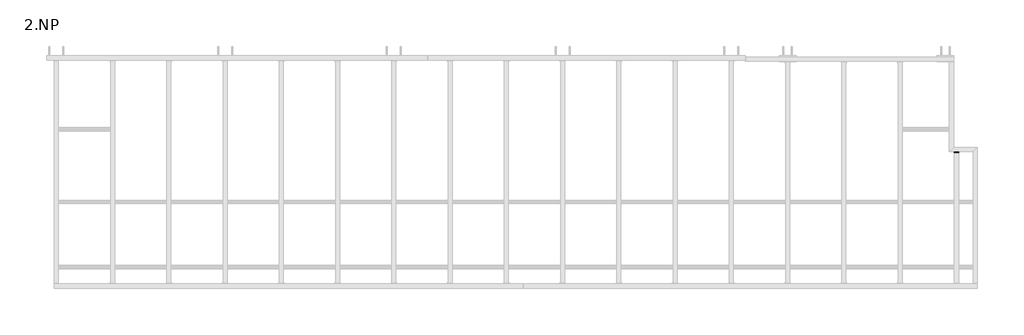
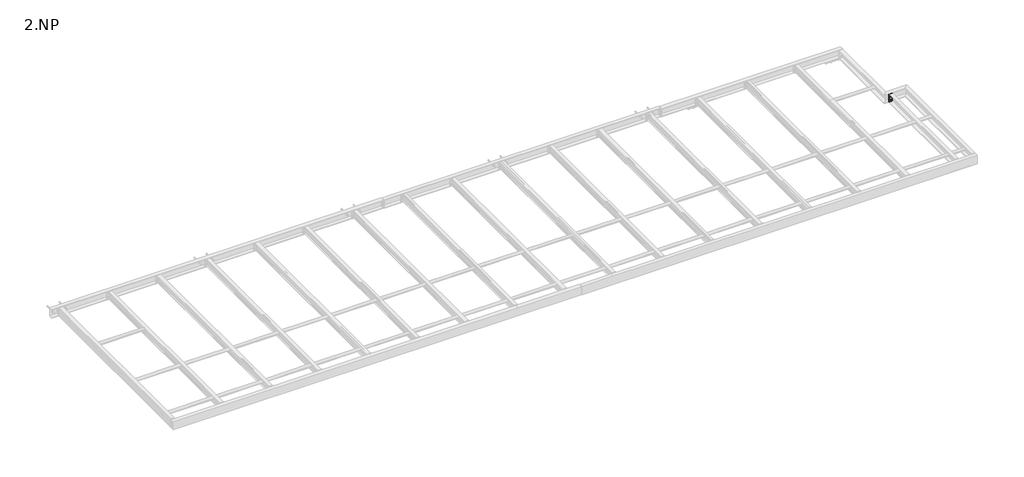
# One storey, part 16 of 18: 22 assemblies, 4 proxies.
"""IFC4 building model written with IfcOpenShell, lengths in millimetres."""

from ifc_helpers import new_model, si_unit, point, frame, frame_2d, origin, place, context, project, spatial, polyline, circle_curve, trimmed, segment, composite_curve, outline, extrude, element, save

model = new_model("IFC4")

# Units and contexts
model_context = context("Model", 3, world=origin())
ifc_project = project(units=[si_unit("LENGTHUNIT", "METRE", prefix="MILLI")], contexts=[model_context])

# Site, building, storey
site = spatial("IfcSite", under=ifc_project)
building = spatial("IfcBuilding", under=site)
storey = spatial("IfcBuildingStorey", under=building, Name="2.NP", Elevation=3000.0)

# Proxies
placement = place(None, origin())
element("IfcBuildingElementProxy", 1, Name="PLECH", ObjectType="PLECH", at=placement, inside=storey, context=model_context, shape_type="SweptSolid", body=[
    extrude(outline(polyline([(16015.0, 2145.0), (16090.0, 2145.0), (16090.0, 2135.0), (16015.0, 2135.0), (16015.0, 2145.0)])), frame((0.0, 0.0, 3130.0), z_axis=(0.0, 0.0, 1.0), x_axis=(1.0, 0.0, 0.0)), (0.0, 0.0, 1.0), 160.0),
])
element("IfcBuildingElementProxy", 2, Name="PLECH", ObjectType="PLECH", at=placement, inside=storey, context=model_context, shape_type="SweptSolid", body=[
    extrude(outline(polyline([(16015.0, 2155.0), (16090.0, 2155.0), (16090.0, 2145.0), (16015.0, 2145.0), (16015.0, 2155.0)])), frame((0.0, 0.0, 3130.0), z_axis=(0.0, 0.0, 1.0), x_axis=(1.0, 0.0, 0.0)), (0.0, 0.0, 1.0), 160.0),
])
element("IfcBuildingElementProxy", 3, Name="PLECH", ObjectType="PLECH", at=placement, inside=storey, context=model_context, shape_type="SweptSolid", body=[
    extrude(outline(composite_curve([segment(polyline([(2155.0, 3289.5), (2204.5, 3289.5)]), True, "CONTINUOUS"), segment(trimmed(circle_curve(frame_2d((2224.5, 3289.5)), 20.0), [point((2204.5, 3289.5))], [point((2224.5, 3269.5))], True, "CARTESIAN"), True, "CONTINUOUS"), segment(polyline([(2224.5, 3269.5), (2224.5, 3150.5)]), True, "CONTINUOUS"), segment(trimmed(circle_curve(frame_2d((2224.5, 3130.5)), 20.0), [point((2224.5, 3150.5))], [point((2204.5, 3130.5))], True, "CARTESIAN"), True, "CONTINUOUS"), segment(polyline([(2204.5, 3130.5), (2155.0, 3130.5), (2155.0, 3289.5)]), True, "CONTINUOUS")], self_intersect=False)), frame((16076.5, 0.0, 0.0), z_axis=(1.0, 0.0, 0.0), x_axis=(0.0, 1.0, 0.0)), (0.0, 0.0, 1.0), 8.0),
])
element("IfcBuildingElementProxy", 4, Name="Bolt assembly", ObjectType="Bolt assembly", at=placement, inside=storey, context=model_context, shape_type="SweptSolid", body=[
    extrude(outline(composite_curve([segment(trimmed(circle_curve(frame_2d((3170.0, 16050.0)), 9.0), [point((3170.0, 16059.0))], [point((3170.0, 16041.0))], False, "CARTESIAN"), True, "CONTINUOUS"), segment(trimmed(circle_curve(frame_2d((3170.0, 16050.0)), 9.0), [point((3170.0, 16041.0))], [point((3170.0, 16059.0))], False, "CARTESIAN"), True, "CONTINUOUS")], self_intersect=False)), frame((0.0, 2144.9, 0.0), z_axis=(0.0, 1.0, 0.0), x_axis=(0.0, 0.0, 1.0)), (0.0, 0.0, 1.0), 10.0),
    extrude(outline(polyline([(3170.0, 16063.8564065), (3182.0, 16056.9282032), (3182.0, 16043.0717968), (3170.0, 16036.1435935), (3158.0, 16043.0717968), (3158.0, 16056.9282032), (3170.0, 16063.8564065)])), frame((0.0, 2158.0, 0.0), z_axis=(0.0, 1.0, 0.0), x_axis=(0.0, 0.0, 1.0)), (0.0, 0.0, 1.0), 10.0),
    extrude(outline(composite_curve([segment(trimmed(circle_curve(frame_2d((3170.0, 16050.0)), 8.0), [point((3170.0, 16058.0))], [point((3170.0, 16042.0))], False, "CARTESIAN"), True, "CONTINUOUS"), segment(trimmed(circle_curve(frame_2d((3170.0, 16050.0)), 8.0), [point((3170.0, 16042.0))], [point((3170.0, 16058.0))], False, "CARTESIAN"), True, "CONTINUOUS")], self_intersect=False)), frame((0.0, 2108.0, 0.0), z_axis=(0.0, 1.0, 0.0), x_axis=(0.0, 0.0, 1.0)), (0.0, 0.0, 1.0), 50.0),
    extrude(outline(composite_curve([segment(trimmed(circle_curve(frame_2d((3170.0, 16050.0)), 15.0), [point((3170.0, 16065.0))], [point((3170.0, 16035.0))], False, "CARTESIAN"), True, "CONTINUOUS"), segment(trimmed(circle_curve(frame_2d((3170.0, 16050.0)), 15.0), [point((3170.0, 16035.0))], [point((3170.0, 16065.0))], False, "CARTESIAN"), True, "CONTINUOUS")], self_intersect=False)), frame((0.0, 2155.0, 0.0), z_axis=(0.0, 1.0, 0.0), x_axis=(0.0, 0.0, 1.0)), (0.0, 0.0, 1.0), 3.0),
    extrude(outline(composite_curve([segment(trimmed(circle_curve(frame_2d((3170.0, 16050.0)), 15.0), [point((3170.0, 16065.0))], [point((3170.0, 16035.0))], False, "CARTESIAN"), True, "CONTINUOUS"), segment(trimmed(circle_curve(frame_2d((3170.0, 16050.0)), 15.0), [point((3170.0, 16035.0))], [point((3170.0, 16065.0))], False, "CARTESIAN"), True, "CONTINUOUS")], self_intersect=False)), frame((0.0, 2132.0, 0.0), z_axis=(0.0, 1.0, 0.0), x_axis=(0.0, 0.0, 1.0)), (0.0, 0.0, 1.0), 3.0),
    extrude(outline(polyline([(3170.0, 16065.4441197), (3183.375, 16057.7220599), (3183.375, 16042.2779401), (3170.0, 16034.5558803), (3156.625, 16042.2779401), (3156.625, 16057.7220599), (3170.0, 16065.4441197)])), frame((0.0, 2119.0, 0.0), z_axis=(0.0, 1.0, 0.0), x_axis=(0.0, 0.0, 1.0)), (0.0, 0.0, 1.0), 13.0),
    extrude(outline(composite_curve([segment(trimmed(circle_curve(frame_2d((3170.0, 16050.0)), 9.0), [point((3170.0, 16059.0))], [point((3170.0, 16041.0))], False, "CARTESIAN"), True, "CONTINUOUS"), segment(trimmed(circle_curve(frame_2d((3170.0, 16050.0)), 9.0), [point((3170.0, 16041.0))], [point((3170.0, 16059.0))], False, "CARTESIAN"), True, "CONTINUOUS")], self_intersect=False)), frame((0.0, 2135.0, 0.0), z_axis=(0.0, 1.0, 0.0), x_axis=(0.0, 0.0, 1.0)), (0.0, 0.0, 1.0), 10.1),
    extrude(outline(composite_curve([segment(trimmed(circle_curve(frame_2d((3250.0, 16050.0)), 9.0), [point((3250.0, 16059.0))], [point((3250.0, 16041.0))], False, "CARTESIAN"), True, "CONTINUOUS"), segment(trimmed(circle_curve(frame_2d((3250.0, 16050.0)), 9.0), [point((3250.0, 16041.0))], [point((3250.0, 16059.0))], False, "CARTESIAN"), True, "CONTINUOUS")], self_intersect=False)), frame((0.0, 2144.9, 0.0), z_axis=(0.0, 1.0, 0.0), x_axis=(0.0, 0.0, 1.0)), (0.0, 0.0, 1.0), 10.0),
    extrude(outline(polyline([(3250.0, 16063.8564065), (3262.0, 16056.9282032), (3262.0, 16043.0717968), (3250.0, 16036.1435935), (3238.0, 16043.0717968), (3238.0, 16056.9282032), (3250.0, 16063.8564065)])), frame((0.0, 2158.0, 0.0), z_axis=(0.0, 1.0, 0.0), x_axis=(0.0, 0.0, 1.0)), (0.0, 0.0, 1.0), 10.0),
    extrude(outline(composite_curve([segment(trimmed(circle_curve(frame_2d((3250.0, 16050.0)), 8.0), [point((3250.0, 16058.0))], [point((3250.0, 16042.0))], False, "CARTESIAN"), True, "CONTINUOUS"), segment(trimmed(circle_curve(frame_2d((3250.0, 16050.0)), 8.0), [point((3250.0, 16042.0))], [point((3250.0, 16058.0))], False, "CARTESIAN"), True, "CONTINUOUS")], self_intersect=False)), frame((0.0, 2108.0, 0.0), z_axis=(0.0, 1.0, 0.0), x_axis=(0.0, 0.0, 1.0)), (0.0, 0.0, 1.0), 50.0),
    extrude(outline(composite_curve([segment(trimmed(circle_curve(frame_2d((3250.0, 16050.0)), 15.0), [point((3250.0, 16065.0))], [point((3250.0, 16035.0))], False, "CARTESIAN"), True, "CONTINUOUS"), segment(trimmed(circle_curve(frame_2d((3250.0, 16050.0)), 15.0), [point((3250.0, 16035.0))], [point((3250.0, 16065.0))], False, "CARTESIAN"), True, "CONTINUOUS")], self_intersect=False)), frame((0.0, 2155.0, 0.0), z_axis=(0.0, 1.0, 0.0), x_axis=(0.0, 0.0, 1.0)), (0.0, 0.0, 1.0), 3.0),
    extrude(outline(composite_curve([segment(trimmed(circle_curve(frame_2d((3250.0, 16050.0)), 15.0), [point((3250.0, 16065.0))], [point((3250.0, 16035.0))], False, "CARTESIAN"), True, "CONTINUOUS"), segment(trimmed(circle_curve(frame_2d((3250.0, 16050.0)), 15.0), [point((3250.0, 16035.0))], [point((3250.0, 16065.0))], False, "CARTESIAN"), True, "CONTINUOUS")], self_intersect=False)), frame((0.0, 2132.0, 0.0), z_axis=(0.0, 1.0, 0.0), x_axis=(0.0, 0.0, 1.0)), (0.0, 0.0, 1.0), 3.0),
    extrude(outline(polyline([(3250.0, 16065.4441197), (3263.375, 16057.7220599), (3263.375, 16042.2779401), (3250.0, 16034.5558803), (3236.625, 16042.2779401), (3236.625, 16057.7220599), (3250.0, 16065.4441197)])), frame((0.0, 2119.0, 0.0), z_axis=(0.0, 1.0, 0.0), x_axis=(0.0, 0.0, 1.0)), (0.0, 0.0, 1.0), 13.0),
    extrude(outline(composite_curve([segment(trimmed(circle_curve(frame_2d((3250.0, 16050.0)), 9.0), [point((3250.0, 16059.0))], [point((3250.0, 16041.0))], False, "CARTESIAN"), True, "CONTINUOUS"), segment(trimmed(circle_curve(frame_2d((3250.0, 16050.0)), 9.0), [point((3250.0, 16041.0))], [point((3250.0, 16059.0))], False, "CARTESIAN"), True, "CONTINUOUS")], self_intersect=False)), frame((0.0, 2135.0, 0.0), z_axis=(0.0, 1.0, 0.0), x_axis=(0.0, 0.0, 1.0)), (0.0, 0.0, 1.0), 10.1),
])

# Assemblies
element("IfcElementAssembly", 5, at=placement, inside=storey, context=model_context, shape_type="SweptSolid", body=[
    extrude(outline(composite_curve([segment(trimmed(circle_curve(frame_2d((1260.0, 3230.0)), 30.15), [point((1290.15, 3230.0))], [point((1229.85, 3230.0))], False, "CARTESIAN"), True, "CONTINUOUS"), segment(trimmed(circle_curve(frame_2d((1260.0, 3230.0)), 30.15), [point((1229.85, 3230.0))], [point((1290.15, 3230.0))], False, "CARTESIAN"), True, "CONTINUOUS")], self_intersect=False), holes=[composite_curve([segment(trimmed(circle_curve(frame_2d((1260.0, 3230.0)), 25.15), [point((1285.15, 3230.0))], [point((1234.85, 3230.0))], True, "CARTESIAN"), True, "CONTINUOUS"), segment(trimmed(circle_curve(frame_2d((1260.0, 3230.0)), 25.15), [point((1234.85, 3230.0))], [point((1285.15, 3230.0))], True, "CARTESIAN"), True, "CONTINUOUS")], self_intersect=False)]), frame((15.45, 0.0, 0.0), z_axis=(1.0, 0.0, 0.0), x_axis=(0.0, 1.0, 0.0)), (0.0, 0.0, 1.0), 1032.2),
])
element("IfcElementAssembly", 6, at=placement, inside=storey, context=model_context, shape_type="SweptSolid", body=[
    extrude(outline(composite_curve([segment(trimmed(circle_curve(frame_2d((1260.0, 3230.0)), 30.15), [point((1290.15, 3230.0))], [point((1229.85, 3230.0))], False, "CARTESIAN"), True, "CONTINUOUS"), segment(trimmed(circle_curve(frame_2d((1260.0, 3230.0)), 30.15), [point((1229.85, 3230.0))], [point((1290.15, 3230.0))], False, "CARTESIAN"), True, "CONTINUOUS")], self_intersect=False), holes=[composite_curve([segment(trimmed(circle_curve(frame_2d((1260.0, 3230.0)), 25.15), [point((1285.15, 3230.0))], [point((1234.85, 3230.0))], True, "CARTESIAN"), True, "CONTINUOUS"), segment(trimmed(circle_curve(frame_2d((1260.0, 3230.0)), 25.15), [point((1234.85, 3230.0))], [point((1285.15, 3230.0))], True, "CARTESIAN"), True, "CONTINUOUS")], self_intersect=False)]), frame((1052.35, 0.0, 0.0), z_axis=(1.0, 0.0, 0.0), x_axis=(0.0, 1.0, 0.0)), (0.0, 0.0, 1.0), 995.3),
])
element("IfcElementAssembly", 7, at=placement, inside=storey, context=model_context, shape_type="SweptSolid", body=[
    extrude(outline(composite_curve([segment(trimmed(circle_curve(frame_2d((1260.0, 3230.0)), 30.15), [point((1290.15, 3230.0))], [point((1229.85, 3230.0))], False, "CARTESIAN"), True, "CONTINUOUS"), segment(trimmed(circle_curve(frame_2d((1260.0, 3230.0)), 30.15), [point((1229.85, 3230.0))], [point((1290.15, 3230.0))], False, "CARTESIAN"), True, "CONTINUOUS")], self_intersect=False), holes=[composite_curve([segment(trimmed(circle_curve(frame_2d((1260.0, 3230.0)), 25.15), [point((1285.15, 3230.0))], [point((1234.85, 3230.0))], True, "CARTESIAN"), True, "CONTINUOUS"), segment(trimmed(circle_curve(frame_2d((1260.0, 3230.0)), 25.15), [point((1234.85, 3230.0))], [point((1285.15, 3230.0))], True, "CARTESIAN"), True, "CONTINUOUS")], self_intersect=False)]), frame((2052.35, 0.0, 0.0), z_axis=(1.0, 0.0, 0.0), x_axis=(0.0, 1.0, 0.0)), (0.0, 0.0, 1.0), 995.3),
])
element("IfcElementAssembly", 8, at=placement, inside=storey, context=model_context, shape_type="SweptSolid", body=[
    extrude(outline(composite_curve([segment(trimmed(circle_curve(frame_2d((1260.0, 3230.0)), 30.15), [point((1290.15, 3230.0))], [point((1229.85, 3230.0))], False, "CARTESIAN"), True, "CONTINUOUS"), segment(trimmed(circle_curve(frame_2d((1260.0, 3230.0)), 30.15), [point((1229.85, 3230.0))], [point((1290.15, 3230.0))], False, "CARTESIAN"), True, "CONTINUOUS")], self_intersect=False), holes=[composite_curve([segment(trimmed(circle_curve(frame_2d((1260.0, 3230.0)), 25.15), [point((1285.15, 3230.0))], [point((1234.85, 3230.0))], True, "CARTESIAN"), True, "CONTINUOUS"), segment(trimmed(circle_curve(frame_2d((1260.0, 3230.0)), 25.15), [point((1234.85, 3230.0))], [point((1285.15, 3230.0))], True, "CARTESIAN"), True, "CONTINUOUS")], self_intersect=False)]), frame((3052.35, 0.0, 0.0), z_axis=(1.0, 0.0, 0.0), x_axis=(0.0, 1.0, 0.0)), (0.0, 0.0, 1.0), 995.3),
])
element("IfcElementAssembly", 9, at=placement, inside=storey, context=model_context, shape_type="SweptSolid", body=[
    extrude(outline(composite_curve([segment(trimmed(circle_curve(frame_2d((1260.0, 3230.0)), 30.15), [point((1290.15, 3230.0))], [point((1229.85, 3230.0))], False, "CARTESIAN"), True, "CONTINUOUS"), segment(trimmed(circle_curve(frame_2d((1260.0, 3230.0)), 30.15), [point((1229.85, 3230.0))], [point((1290.15, 3230.0))], False, "CARTESIAN"), True, "CONTINUOUS")], self_intersect=False), holes=[composite_curve([segment(trimmed(circle_curve(frame_2d((1260.0, 3230.0)), 25.15), [point((1285.15, 3230.0))], [point((1234.85, 3230.0))], True, "CARTESIAN"), True, "CONTINUOUS"), segment(trimmed(circle_curve(frame_2d((1260.0, 3230.0)), 25.15), [point((1234.85, 3230.0))], [point((1285.15, 3230.0))], True, "CARTESIAN"), True, "CONTINUOUS")], self_intersect=False)]), frame((4052.35, 0.0, 0.0), z_axis=(1.0, 0.0, 0.0), x_axis=(0.0, 1.0, 0.0)), (0.0, 0.0, 1.0), 995.3),
])
element("IfcElementAssembly", 10, at=placement, inside=storey, context=model_context, shape_type="SweptSolid", body=[
    extrude(outline(composite_curve([segment(trimmed(circle_curve(frame_2d((1260.0, 3230.0)), 30.15), [point((1290.15, 3230.0))], [point((1229.85, 3230.0))], False, "CARTESIAN"), True, "CONTINUOUS"), segment(trimmed(circle_curve(frame_2d((1260.0, 3230.0)), 30.15), [point((1229.85, 3230.0))], [point((1290.15, 3230.0))], False, "CARTESIAN"), True, "CONTINUOUS")], self_intersect=False), holes=[composite_curve([segment(trimmed(circle_curve(frame_2d((1260.0, 3230.0)), 25.15), [point((1285.15, 3230.0))], [point((1234.85, 3230.0))], True, "CARTESIAN"), True, "CONTINUOUS"), segment(trimmed(circle_curve(frame_2d((1260.0, 3230.0)), 25.15), [point((1234.85, 3230.0))], [point((1285.15, 3230.0))], True, "CARTESIAN"), True, "CONTINUOUS")], self_intersect=False)]), frame((5052.35, 0.0, 0.0), z_axis=(1.0, 0.0, 0.0), x_axis=(0.0, 1.0, 0.0)), (0.0, 0.0, 1.0), 995.3),
])
element("IfcElementAssembly", 11, at=placement, inside=storey, context=model_context, shape_type="SweptSolid", body=[
    extrude(outline(composite_curve([segment(trimmed(circle_curve(frame_2d((100.0, 3230.0)), 30.15), [point((130.15, 3230.0))], [point((69.85, 3230.0))], False, "CARTESIAN"), True, "CONTINUOUS"), segment(trimmed(circle_curve(frame_2d((100.0, 3230.0)), 30.15), [point((69.85, 3230.0))], [point((130.15, 3230.0))], False, "CARTESIAN"), True, "CONTINUOUS")], self_intersect=False), holes=[composite_curve([segment(trimmed(circle_curve(frame_2d((100.0, 3230.0)), 25.15), [point((125.15, 3230.0))], [point((74.85, 3230.0))], True, "CARTESIAN"), True, "CONTINUOUS"), segment(trimmed(circle_curve(frame_2d((100.0, 3230.0)), 25.15), [point((74.85, 3230.0))], [point((125.15, 3230.0))], True, "CARTESIAN"), True, "CONTINUOUS")], self_intersect=False)]), frame((1052.35, 0.0, 0.0), z_axis=(1.0, 0.0, 0.0), x_axis=(0.0, 1.0, 0.0)), (0.0, 0.0, 1.0), 995.3),
])
element("IfcElementAssembly", 12, at=placement, inside=storey, context=model_context, shape_type="SweptSolid", body=[
    extrude(outline(composite_curve([segment(trimmed(circle_curve(frame_2d((100.0, 3230.0)), 30.15), [point((130.15, 3230.0))], [point((69.85, 3230.0))], False, "CARTESIAN"), True, "CONTINUOUS"), segment(trimmed(circle_curve(frame_2d((100.0, 3230.0)), 30.15), [point((69.85, 3230.0))], [point((130.15, 3230.0))], False, "CARTESIAN"), True, "CONTINUOUS")], self_intersect=False), holes=[composite_curve([segment(trimmed(circle_curve(frame_2d((100.0, 3230.0)), 25.15), [point((125.15, 3230.0))], [point((74.85, 3230.0))], True, "CARTESIAN"), True, "CONTINUOUS"), segment(trimmed(circle_curve(frame_2d((100.0, 3230.0)), 25.15), [point((74.85, 3230.0))], [point((125.15, 3230.0))], True, "CARTESIAN"), True, "CONTINUOUS")], self_intersect=False)]), frame((15.45, 0.0, 0.0), z_axis=(1.0, 0.0, 0.0), x_axis=(0.0, 1.0, 0.0)), (0.0, 0.0, 1.0), 1032.2),
])
element("IfcElementAssembly", 13, at=placement, inside=storey, context=model_context, shape_type="SweptSolid", body=[
    extrude(outline(composite_curve([segment(trimmed(circle_curve(frame_2d((100.0, 3230.0)), 30.15), [point((130.15, 3230.0))], [point((69.85, 3230.0))], False, "CARTESIAN"), True, "CONTINUOUS"), segment(trimmed(circle_curve(frame_2d((100.0, 3230.0)), 30.15), [point((69.85, 3230.0))], [point((130.15, 3230.0))], False, "CARTESIAN"), True, "CONTINUOUS")], self_intersect=False), holes=[composite_curve([segment(trimmed(circle_curve(frame_2d((100.0, 3230.0)), 25.15), [point((125.15, 3230.0))], [point((74.85, 3230.0))], True, "CARTESIAN"), True, "CONTINUOUS"), segment(trimmed(circle_curve(frame_2d((100.0, 3230.0)), 25.15), [point((74.85, 3230.0))], [point((125.15, 3230.0))], True, "CARTESIAN"), True, "CONTINUOUS")], self_intersect=False)]), frame((2052.35, 0.0, 0.0), z_axis=(1.0, 0.0, 0.0), x_axis=(0.0, 1.0, 0.0)), (0.0, 0.0, 1.0), 995.3),
])
element("IfcElementAssembly", 14, at=placement, inside=storey, context=model_context, shape_type="SweptSolid", body=[
    extrude(outline(composite_curve([segment(trimmed(circle_curve(frame_2d((100.0, 3230.0)), 30.15), [point((130.15, 3230.0))], [point((69.85, 3230.0))], False, "CARTESIAN"), True, "CONTINUOUS"), segment(trimmed(circle_curve(frame_2d((100.0, 3230.0)), 30.15), [point((69.85, 3230.0))], [point((130.15, 3230.0))], False, "CARTESIAN"), True, "CONTINUOUS")], self_intersect=False), holes=[composite_curve([segment(trimmed(circle_curve(frame_2d((100.0, 3230.0)), 25.15), [point((125.15, 3230.0))], [point((74.85, 3230.0))], True, "CARTESIAN"), True, "CONTINUOUS"), segment(trimmed(circle_curve(frame_2d((100.0, 3230.0)), 25.15), [point((74.85, 3230.0))], [point((125.15, 3230.0))], True, "CARTESIAN"), True, "CONTINUOUS")], self_intersect=False)]), frame((3052.35, 0.0, 0.0), z_axis=(1.0, 0.0, 0.0), x_axis=(0.0, 1.0, 0.0)), (0.0, 0.0, 1.0), 995.3),
])
element("IfcElementAssembly", 15, at=placement, inside=storey, context=model_context, shape_type="SweptSolid", body=[
    extrude(outline(composite_curve([segment(trimmed(circle_curve(frame_2d((100.0, 3230.0)), 30.15), [point((130.15, 3230.0))], [point((69.85, 3230.0))], False, "CARTESIAN"), True, "CONTINUOUS"), segment(trimmed(circle_curve(frame_2d((100.0, 3230.0)), 30.15), [point((69.85, 3230.0))], [point((130.15, 3230.0))], False, "CARTESIAN"), True, "CONTINUOUS")], self_intersect=False), holes=[composite_curve([segment(trimmed(circle_curve(frame_2d((100.0, 3230.0)), 25.15), [point((125.15, 3230.0))], [point((74.85, 3230.0))], True, "CARTESIAN"), True, "CONTINUOUS"), segment(trimmed(circle_curve(frame_2d((100.0, 3230.0)), 25.15), [point((74.85, 3230.0))], [point((125.15, 3230.0))], True, "CARTESIAN"), True, "CONTINUOUS")], self_intersect=False)]), frame((4052.35, 0.0, 0.0), z_axis=(1.0, 0.0, 0.0), x_axis=(0.0, 1.0, 0.0)), (0.0, 0.0, 1.0), 995.3),
])
element("IfcElementAssembly", 16, at=placement, inside=storey, context=model_context, shape_type="SweptSolid", body=[
    extrude(outline(composite_curve([segment(trimmed(circle_curve(frame_2d((100.0, 3230.0)), 30.15), [point((130.15, 3230.0))], [point((69.85, 3230.0))], False, "CARTESIAN"), True, "CONTINUOUS"), segment(trimmed(circle_curve(frame_2d((100.0, 3230.0)), 30.15), [point((69.85, 3230.0))], [point((130.15, 3230.0))], False, "CARTESIAN"), True, "CONTINUOUS")], self_intersect=False), holes=[composite_curve([segment(trimmed(circle_curve(frame_2d((100.0, 3230.0)), 25.15), [point((125.15, 3230.0))], [point((74.85, 3230.0))], True, "CARTESIAN"), True, "CONTINUOUS"), segment(trimmed(circle_curve(frame_2d((100.0, 3230.0)), 25.15), [point((74.85, 3230.0))], [point((125.15, 3230.0))], True, "CARTESIAN"), True, "CONTINUOUS")], self_intersect=False)]), frame((5052.35, 0.0, 0.0), z_axis=(1.0, 0.0, 0.0), x_axis=(0.0, 1.0, 0.0)), (0.0, 0.0, 1.0), 995.3),
])
element("IfcElementAssembly", 17, at=placement, inside=storey, context=model_context, shape_type="SweptSolid", body=[
    extrude(outline(composite_curve([segment(trimmed(circle_curve(frame_2d((2550.0, 3230.0)), 30.15), [point((2580.15, 3230.0))], [point((2519.85, 3230.0))], False, "CARTESIAN"), True, "CONTINUOUS"), segment(trimmed(circle_curve(frame_2d((2550.0, 3230.0)), 30.15), [point((2519.85, 3230.0))], [point((2580.15, 3230.0))], False, "CARTESIAN"), True, "CONTINUOUS")], self_intersect=False), holes=[composite_curve([segment(trimmed(circle_curve(frame_2d((2550.0, 3230.0)), 25.15), [point((2575.15, 3230.0))], [point((2524.85, 3230.0))], True, "CARTESIAN"), True, "CONTINUOUS"), segment(trimmed(circle_curve(frame_2d((2550.0, 3230.0)), 25.15), [point((2524.85, 3230.0))], [point((2575.15, 3230.0))], True, "CARTESIAN"), True, "CONTINUOUS")], self_intersect=False)]), frame((15.5, 0.0, 0.0), z_axis=(1.0, 0.0, 0.0), x_axis=(0.0, 1.0, 0.0)), (0.0, 0.0, 1.0), 1034.5),
])
element("IfcElementAssembly", 18, at=placement, inside=storey, context=model_context, shape_type="SweptSolid", body=[
    extrude(outline(composite_curve([segment(polyline([(3160.0, 3013.5), (3160.0, 3086.5), (3166.9000001, 3086.5), (3166.9000001, 3059.3499999)]), True, "CONTINUOUS"), segment(trimmed(circle_curve(frame_2d((3173.9000001, 3059.3499999)), 7.0), [point((3166.9000001, 3059.3499999))], [point((3173.9000001, 3052.3499999))], True, "CARTESIAN"), True, "CONTINUOUS"), segment(polyline([(3173.9000001, 3052.3499999), (3286.0999999, 3052.3499999)]), True, "CONTINUOUS"), segment(trimmed(circle_curve(frame_2d((3286.0999999, 3059.3499999)), 7.0), [point((3286.0999999, 3052.3499999))], [point((3293.0999999, 3059.3499999))], True, "CARTESIAN"), True, "CONTINUOUS"), segment(polyline([(3293.0999999, 3059.3499999), (3293.0999999, 3086.5), (3300.0, 3086.5), (3300.0, 3013.5), (3293.0999999, 3013.5), (3293.0999999, 3040.6500001)]), True, "CONTINUOUS"), segment(trimmed(circle_curve(frame_2d((3286.0999999, 3040.6500001)), 7.0), [point((3293.0999999, 3040.6500001))], [point((3286.0999999, 3047.6500001))], True, "CARTESIAN"), True, "CONTINUOUS"), segment(polyline([(3286.0999999, 3047.6500001), (3173.9000001, 3047.6500001)]), True, "CONTINUOUS"), segment(trimmed(circle_curve(frame_2d((3173.9000001, 3040.6500001)), 7.0), [point((3173.9000001, 3047.6500001))], [point((3166.9000001, 3040.6500001))], True, "CARTESIAN"), True, "CONTINUOUS"), segment(polyline([(3166.9000001, 3040.6500001), (3166.9000001, 3013.5), (3160.0, 3013.5)]), True, "CONTINUOUS")], self_intersect=False)), frame((0.0, -180.0, 0.0), z_axis=(0.0, 1.0, 0.0), x_axis=(0.0, 0.0, 1.0)), (0.0, 0.0, 1.0), 3947.0),
    extrude(outline(polyline([(3000.0, 3775.0), (3100.0, 3775.0), (3100.0, 3767.0), (3000.0, 3767.0), (3000.0, 3775.0)])), frame((0.0, 0.0, 3175.0), z_axis=(0.0, 0.0, 1.0), x_axis=(1.0, 0.0, 0.0)), (0.0, 0.0, 1.0), 110.0),
    extrude(outline(polyline([(3000.0, -180.0), (3100.0, -180.0), (3100.0, -190.0), (3000.0, -190.0), (3000.0, -180.0)])), frame((0.0, 0.0, 3166.5), z_axis=(0.0, 0.0, 1.0), x_axis=(1.0, 0.0, 0.0)), (0.0, 0.0, 1.0), 127.0),
])
element("IfcElementAssembly", 19, at=placement, inside=storey, context=model_context, shape_type="SweptSolid", body=[
    extrude(outline(composite_curve([segment(polyline([(3160.0, 4013.5), (3160.0, 4086.5), (3166.9000001, 4086.5), (3166.9000001, 4059.3499999)]), True, "CONTINUOUS"), segment(trimmed(circle_curve(frame_2d((3173.9000001, 4059.3499999)), 7.0), [point((3166.9000001, 4059.3499999))], [point((3173.9000001, 4052.3499999))], True, "CARTESIAN"), True, "CONTINUOUS"), segment(polyline([(3173.9000001, 4052.3499999), (3286.0999999, 4052.3499999)]), True, "CONTINUOUS"), segment(trimmed(circle_curve(frame_2d((3286.0999999, 4059.3499999)), 7.0), [point((3286.0999999, 4052.3499999))], [point((3293.0999999, 4059.3499999))], True, "CARTESIAN"), True, "CONTINUOUS"), segment(polyline([(3293.0999999, 4059.3499999), (3293.0999999, 4086.5), (3300.0, 4086.5), (3300.0, 4013.5), (3293.0999999, 4013.5), (3293.0999999, 4040.6500001)]), True, "CONTINUOUS"), segment(trimmed(circle_curve(frame_2d((3286.0999999, 4040.6500001)), 7.0), [point((3293.0999999, 4040.6500001))], [point((3286.0999999, 4047.6500001))], True, "CARTESIAN"), True, "CONTINUOUS"), segment(polyline([(3286.0999999, 4047.6500001), (3173.9000001, 4047.6500001)]), True, "CONTINUOUS"), segment(trimmed(circle_curve(frame_2d((3173.9000001, 4040.6500001)), 7.0), [point((3173.9000001, 4047.6500001))], [point((3166.9000001, 4040.6500001))], True, "CARTESIAN"), True, "CONTINUOUS"), segment(polyline([(3166.9000001, 4040.6500001), (3166.9000001, 4013.5), (3160.0, 4013.5)]), True, "CONTINUOUS")], self_intersect=False)), frame((0.0, -180.0, 0.0), z_axis=(0.0, 1.0, 0.0), x_axis=(0.0, 0.0, 1.0)), (0.0, 0.0, 1.0), 3947.0),
    extrude(outline(polyline([(4000.0, 3775.0), (4100.0, 3775.0), (4100.0, 3767.0), (4000.0, 3767.0), (4000.0, 3775.0)])), frame((0.0, 0.0, 3175.0), z_axis=(0.0, 0.0, 1.0), x_axis=(1.0, 0.0, 0.0)), (0.0, 0.0, 1.0), 110.0),
    extrude(outline(polyline([(4000.0, -180.0), (4100.0, -180.0), (4100.0, -190.0), (4000.0, -190.0), (4000.0, -180.0)])), frame((0.0, 0.0, 3166.5), z_axis=(0.0, 0.0, 1.0), x_axis=(1.0, 0.0, 0.0)), (0.0, 0.0, 1.0), 127.0),
])
element("IfcElementAssembly", 20, at=placement, inside=storey, context=model_context, shape_type="SweptSolid", body=[
    extrude(outline(composite_curve([segment(polyline([(3160.0, 5013.5), (3160.0, 5086.5), (3166.9000001, 5086.5), (3166.9000001, 5059.3499999)]), True, "CONTINUOUS"), segment(trimmed(circle_curve(frame_2d((3173.9000001, 5059.3499999)), 7.0), [point((3166.9000001, 5059.3499999))], [point((3173.9000001, 5052.3499999))], True, "CARTESIAN"), True, "CONTINUOUS"), segment(polyline([(3173.9000001, 5052.3499999), (3286.0999999, 5052.3499999)]), True, "CONTINUOUS"), segment(trimmed(circle_curve(frame_2d((3286.0999999, 5059.3499999)), 7.0), [point((3286.0999999, 5052.3499999))], [point((3293.0999999, 5059.3499999))], True, "CARTESIAN"), True, "CONTINUOUS"), segment(polyline([(3293.0999999, 5059.3499999), (3293.0999999, 5086.5), (3300.0, 5086.5), (3300.0, 5013.5), (3293.0999999, 5013.5), (3293.0999999, 5040.6500001)]), True, "CONTINUOUS"), segment(trimmed(circle_curve(frame_2d((3286.0999999, 5040.6500001)), 7.0), [point((3293.0999999, 5040.6500001))], [point((3286.0999999, 5047.6500001))], True, "CARTESIAN"), True, "CONTINUOUS"), segment(polyline([(3286.0999999, 5047.6500001), (3173.9000001, 5047.6500001)]), True, "CONTINUOUS"), segment(trimmed(circle_curve(frame_2d((3173.9000001, 5040.6500001)), 7.0), [point((3173.9000001, 5047.6500001))], [point((3166.9000001, 5040.6500001))], True, "CARTESIAN"), True, "CONTINUOUS"), segment(polyline([(3166.9000001, 5040.6500001), (3166.9000001, 5013.5), (3160.0, 5013.5)]), True, "CONTINUOUS")], self_intersect=False)), frame((0.0, -180.0, 0.0), z_axis=(0.0, 1.0, 0.0), x_axis=(0.0, 0.0, 1.0)), (0.0, 0.0, 1.0), 3947.0),
    extrude(outline(polyline([(5000.0, 3775.0), (5100.0, 3775.0), (5100.0, 3767.0), (5000.0, 3767.0), (5000.0, 3775.0)])), frame((0.0, 0.0, 3175.0), z_axis=(0.0, 0.0, 1.0), x_axis=(1.0, 0.0, 0.0)), (0.0, 0.0, 1.0), 110.0),
    extrude(outline(polyline([(5000.0, -180.0), (5100.0, -180.0), (5100.0, -190.0), (5000.0, -190.0), (5000.0, -180.0)])), frame((0.0, 0.0, 3166.5), z_axis=(0.0, 0.0, 1.0), x_axis=(1.0, 0.0, 0.0)), (0.0, 0.0, 1.0), 127.0),
])
element("IfcElementAssembly", 21, at=placement, inside=storey, context=model_context, shape_type="SweptSolid", body=[
    extrude(outline(composite_curve([segment(polyline([(3160.0, 2013.5), (3160.0, 2086.5), (3166.9000001, 2086.5), (3166.9000001, 2059.3499999)]), True, "CONTINUOUS"), segment(trimmed(circle_curve(frame_2d((3173.9000001, 2059.3499999)), 7.0), [point((3166.9000001, 2059.3499999))], [point((3173.9000001, 2052.3499999))], True, "CARTESIAN"), True, "CONTINUOUS"), segment(polyline([(3173.9000001, 2052.3499999), (3286.0999999, 2052.3499999)]), True, "CONTINUOUS"), segment(trimmed(circle_curve(frame_2d((3286.0999999, 2059.3499999)), 7.0), [point((3286.0999999, 2052.3499999))], [point((3293.0999999, 2059.3499999))], True, "CARTESIAN"), True, "CONTINUOUS"), segment(polyline([(3293.0999999, 2059.3499999), (3293.0999999, 2086.5), (3300.0, 2086.5), (3300.0, 2013.5), (3293.0999999, 2013.5), (3293.0999999, 2040.6500001)]), True, "CONTINUOUS"), segment(trimmed(circle_curve(frame_2d((3286.0999999, 2040.6500001)), 7.0), [point((3293.0999999, 2040.6500001))], [point((3286.0999999, 2047.6500001))], True, "CARTESIAN"), True, "CONTINUOUS"), segment(polyline([(3286.0999999, 2047.6500001), (3173.9000001, 2047.6500001)]), True, "CONTINUOUS"), segment(trimmed(circle_curve(frame_2d((3173.9000001, 2040.6500001)), 7.0), [point((3173.9000001, 2047.6500001))], [point((3166.9000001, 2040.6500001))], True, "CARTESIAN"), True, "CONTINUOUS"), segment(polyline([(3166.9000001, 2040.6500001), (3166.9000001, 2013.5), (3160.0, 2013.5)]), True, "CONTINUOUS")], self_intersect=False)), frame((0.0, -180.0, 0.0), z_axis=(0.0, 1.0, 0.0), x_axis=(0.0, 0.0, 1.0)), (0.0, 0.0, 1.0), 3947.0),
    extrude(outline(polyline([(2000.0, 3775.0), (2100.0, 3775.0), (2100.0, 3767.0), (2000.0, 3767.0), (2000.0, 3775.0)])), frame((0.0, 0.0, 3175.0), z_axis=(0.0, 0.0, 1.0), x_axis=(1.0, 0.0, 0.0)), (0.0, 0.0, 1.0), 110.0),
    extrude(outline(polyline([(2000.0, -180.0), (2100.0, -180.0), (2100.0, -190.0), (2000.0, -190.0), (2000.0, -180.0)])), frame((0.0, 0.0, 3166.5), z_axis=(0.0, 0.0, 1.0), x_axis=(1.0, 0.0, 0.0)), (0.0, 0.0, 1.0), 127.0),
])
element("IfcElementAssembly", 22, at=placement, inside=storey, context=model_context, shape_type="SweptSolid", body=[
    extrude(outline(composite_curve([segment(polyline([(3160.0, 1013.5), (3160.0, 1086.5), (3166.9000001, 1086.5), (3166.9000001, 1059.3499999)]), True, "CONTINUOUS"), segment(trimmed(circle_curve(frame_2d((3173.9000001, 1059.3499999)), 7.0), [point((3166.9000001, 1059.3499999))], [point((3173.9000001, 1052.3499999))], True, "CARTESIAN"), True, "CONTINUOUS"), segment(polyline([(3173.9000001, 1052.3499999), (3286.0999999, 1052.3499999)]), True, "CONTINUOUS"), segment(trimmed(circle_curve(frame_2d((3286.0999999, 1059.3499999)), 7.0), [point((3286.0999999, 1052.3499999))], [point((3293.0999999, 1059.3499999))], True, "CARTESIAN"), True, "CONTINUOUS"), segment(polyline([(3293.0999999, 1059.3499999), (3293.0999999, 1086.5), (3300.0, 1086.5), (3300.0, 1013.5), (3293.0999999, 1013.5), (3293.0999999, 1040.6500001)]), True, "CONTINUOUS"), segment(trimmed(circle_curve(frame_2d((3286.0999999, 1040.6500001)), 7.0), [point((3293.0999999, 1040.6500001))], [point((3286.0999999, 1047.6500001))], True, "CARTESIAN"), True, "CONTINUOUS"), segment(polyline([(3286.0999999, 1047.6500001), (3173.9000001, 1047.6500001)]), True, "CONTINUOUS"), segment(trimmed(circle_curve(frame_2d((3173.9000001, 1040.6500001)), 7.0), [point((3173.9000001, 1047.6500001))], [point((3166.9000001, 1040.6500001))], True, "CARTESIAN"), True, "CONTINUOUS"), segment(polyline([(3166.9000001, 1040.6500001), (3166.9000001, 1013.5), (3160.0, 1013.5)]), True, "CONTINUOUS")], self_intersect=False)), frame((0.0, -180.0, 0.0), z_axis=(0.0, 1.0, 0.0), x_axis=(0.0, 0.0, 1.0)), (0.0, 0.0, 1.0), 3947.0),
    extrude(outline(polyline([(1000.0, 3775.0), (1100.0, 3775.0), (1100.0, 3767.0), (1000.0, 3767.0), (1000.0, 3775.0)])), frame((0.0, 0.0, 3175.0), z_axis=(0.0, 0.0, 1.0), x_axis=(1.0, 0.0, 0.0)), (0.0, 0.0, 1.0), 110.0),
    extrude(outline(polyline([(1000.0, -180.0), (1100.0, -180.0), (1100.0, -190.0), (1000.0, -190.0), (1000.0, -180.0)])), frame((0.0, 0.0, 3166.5), z_axis=(0.0, 0.0, 1.0), x_axis=(1.0, 0.0, 0.0)), (0.0, 0.0, 1.0), 127.0),
])
element("IfcElementAssembly", 23, at=placement, inside=storey, context=model_context, shape_type="SweptSolid", body=[
    extrude(outline(polyline([(85.0, -190.0), (10.0, -190.0), (10.0, -180.0), (85.0, -180.0), (85.0, -190.0)])), frame((0.0, 0.0, 3130.0), z_axis=(0.0, 0.0, 1.0), x_axis=(1.0, 0.0, 0.0)), (0.0, 0.0, 1.0), 160.0),
])
element("IfcElementAssembly", 24, at=placement, inside=storey, context=model_context, shape_type="SweptSolid", body=[
    extrude(outline(polyline([(8350.0, -200.0), (8350.0, -270.0), (8340.0, -270.0), (8340.0, -200.0), (8350.0, -200.0)])), frame((0.0, 0.0, 3130.5), z_axis=(0.0, 0.0, 1.0), x_axis=(1.0, 0.0, 0.0)), (0.0, 0.0, 1.0), 159.0),
])
element("IfcElementAssembly", 25, at=placement, inside=storey, context=model_context, shape_type="SweptSolid", body=[
    extrude(outline(polyline([(8360.0, -200.0), (8360.0, -270.0), (8350.0, -270.0), (8350.0, -200.0), (8360.0, -200.0)])), frame((0.0, 0.0, 3130.5), z_axis=(0.0, 0.0, 1.0), x_axis=(1.0, 0.0, 0.0)), (0.0, 0.0, 1.0), 159.0),
    extrude(outline(composite_curve([segment(trimmed(circle_curve(frame_2d((-234.5, 3170.0)), 9.0), [point((-225.5, 3170.0))], [point((-243.5, 3170.0))], False, "CARTESIAN"), True, "CONTINUOUS"), segment(trimmed(circle_curve(frame_2d((-234.5, 3170.0)), 9.0), [point((-243.5, 3170.0))], [point((-225.5, 3170.0))], False, "CARTESIAN"), True, "CONTINUOUS")], self_intersect=False)), frame((8349.9, 0.0, 0.0), z_axis=(1.0, 0.0, 0.0), x_axis=(0.0, 1.0, 0.0)), (0.0, 0.0, 1.0), 10.0),
    extrude(outline(polyline([(-220.6435935, 3170.0), (-227.5717968, 3158.0), (-241.4282032, 3158.0), (-248.3564065, 3170.0), (-241.4282032, 3182.0), (-227.5717968, 3182.0), (-220.6435935, 3170.0)])), frame((8363.0, 0.0, 0.0), z_axis=(1.0, 0.0, 0.0), x_axis=(0.0, 1.0, 0.0)), (0.0, 0.0, 1.0), 10.0),
    extrude(outline(composite_curve([segment(trimmed(circle_curve(frame_2d((-234.5, 3170.0)), 8.0), [point((-226.5, 3170.0))], [point((-242.5, 3170.0))], False, "CARTESIAN"), True, "CONTINUOUS"), segment(trimmed(circle_curve(frame_2d((-234.5, 3170.0)), 8.0), [point((-242.5, 3170.0))], [point((-226.5, 3170.0))], False, "CARTESIAN"), True, "CONTINUOUS")], self_intersect=False)), frame((8313.0, 0.0, 0.0), z_axis=(1.0, 0.0, 0.0), x_axis=(0.0, 1.0, 0.0)), (0.0, 0.0, 1.0), 50.0),
    extrude(outline(composite_curve([segment(trimmed(circle_curve(frame_2d((-234.5, 3170.0)), 15.0), [point((-219.5, 3170.0))], [point((-249.5, 3170.0))], False, "CARTESIAN"), True, "CONTINUOUS"), segment(trimmed(circle_curve(frame_2d((-234.5, 3170.0)), 15.0), [point((-249.5, 3170.0))], [point((-219.5, 3170.0))], False, "CARTESIAN"), True, "CONTINUOUS")], self_intersect=False)), frame((8360.0, 0.0, 0.0), z_axis=(1.0, 0.0, 0.0), x_axis=(0.0, 1.0, 0.0)), (0.0, 0.0, 1.0), 3.0),
    extrude(outline(composite_curve([segment(trimmed(circle_curve(frame_2d((-234.5, 3170.0)), 15.0), [point((-219.5, 3170.0))], [point((-249.5, 3170.0))], False, "CARTESIAN"), True, "CONTINUOUS"), segment(trimmed(circle_curve(frame_2d((-234.5, 3170.0)), 15.0), [point((-249.5, 3170.0))], [point((-219.5, 3170.0))], False, "CARTESIAN"), True, "CONTINUOUS")], self_intersect=False)), frame((8337.0, 0.0, 0.0), z_axis=(1.0, 0.0, 0.0), x_axis=(0.0, 1.0, 0.0)), (0.0, 0.0, 1.0), 3.0),
    extrude(outline(polyline([(-219.0558803, 3170.0), (-226.7779401, 3156.625), (-242.2220599, 3156.625), (-249.9441197, 3170.0), (-242.2220599, 3183.375), (-226.7779401, 3183.375), (-219.0558803, 3170.0)])), frame((8324.0, 0.0, 0.0), z_axis=(1.0, 0.0, 0.0), x_axis=(0.0, 1.0, 0.0)), (0.0, 0.0, 1.0), 13.0),
    extrude(outline(composite_curve([segment(trimmed(circle_curve(frame_2d((-234.5, 3170.0)), 9.0), [point((-225.5, 3170.0))], [point((-243.5, 3170.0))], False, "CARTESIAN"), True, "CONTINUOUS"), segment(trimmed(circle_curve(frame_2d((-234.5, 3170.0)), 9.0), [point((-243.5, 3170.0))], [point((-225.5, 3170.0))], False, "CARTESIAN"), True, "CONTINUOUS")], self_intersect=False)), frame((8340.0, 0.0, 0.0), z_axis=(1.0, 0.0, 0.0), x_axis=(0.0, 1.0, 0.0)), (0.0, 0.0, 1.0), 10.1),
    extrude(outline(composite_curve([segment(trimmed(circle_curve(frame_2d((-234.5, 3250.0)), 9.0), [point((-225.5, 3250.0))], [point((-243.5, 3250.0))], False, "CARTESIAN"), True, "CONTINUOUS"), segment(trimmed(circle_curve(frame_2d((-234.5, 3250.0)), 9.0), [point((-243.5, 3250.0))], [point((-225.5, 3250.0))], False, "CARTESIAN"), True, "CONTINUOUS")], self_intersect=False)), frame((8349.9, 0.0, 0.0), z_axis=(1.0, 0.0, 0.0), x_axis=(0.0, 1.0, 0.0)), (0.0, 0.0, 1.0), 10.0),
    extrude(outline(polyline([(-220.6435935, 3250.0), (-227.5717968, 3238.0), (-241.4282032, 3238.0), (-248.3564065, 3250.0), (-241.4282032, 3262.0), (-227.5717968, 3262.0), (-220.6435935, 3250.0)])), frame((8363.0, 0.0, 0.0), z_axis=(1.0, 0.0, 0.0), x_axis=(0.0, 1.0, 0.0)), (0.0, 0.0, 1.0), 10.0),
    extrude(outline(composite_curve([segment(trimmed(circle_curve(frame_2d((-234.5, 3250.0)), 8.0), [point((-226.5, 3250.0))], [point((-242.5, 3250.0))], False, "CARTESIAN"), True, "CONTINUOUS"), segment(trimmed(circle_curve(frame_2d((-234.5, 3250.0)), 8.0), [point((-242.5, 3250.0))], [point((-226.5, 3250.0))], False, "CARTESIAN"), True, "CONTINUOUS")], self_intersect=False)), frame((8313.0, 0.0, 0.0), z_axis=(1.0, 0.0, 0.0), x_axis=(0.0, 1.0, 0.0)), (0.0, 0.0, 1.0), 50.0),
    extrude(outline(composite_curve([segment(trimmed(circle_curve(frame_2d((-234.5, 3250.0)), 15.0), [point((-219.5, 3250.0))], [point((-249.5, 3250.0))], False, "CARTESIAN"), True, "CONTINUOUS"), segment(trimmed(circle_curve(frame_2d((-234.5, 3250.0)), 15.0), [point((-249.5, 3250.0))], [point((-219.5, 3250.0))], False, "CARTESIAN"), True, "CONTINUOUS")], self_intersect=False)), frame((8360.0, 0.0, 0.0), z_axis=(1.0, 0.0, 0.0), x_axis=(0.0, 1.0, 0.0)), (0.0, 0.0, 1.0), 3.0),
    extrude(outline(composite_curve([segment(trimmed(circle_curve(frame_2d((-234.5, 3250.0)), 15.0), [point((-219.5, 3250.0))], [point((-249.5, 3250.0))], False, "CARTESIAN"), True, "CONTINUOUS"), segment(trimmed(circle_curve(frame_2d((-234.5, 3250.0)), 15.0), [point((-249.5, 3250.0))], [point((-219.5, 3250.0))], False, "CARTESIAN"), True, "CONTINUOUS")], self_intersect=False)), frame((8337.0, 0.0, 0.0), z_axis=(1.0, 0.0, 0.0), x_axis=(0.0, 1.0, 0.0)), (0.0, 0.0, 1.0), 3.0),
    extrude(outline(polyline([(-219.0558803, 3250.0), (-226.7779401, 3236.625), (-242.2220599, 3236.625), (-249.9441197, 3250.0), (-242.2220599, 3263.375), (-226.7779401, 3263.375), (-219.0558803, 3250.0)])), frame((8324.0, 0.0, 0.0), z_axis=(1.0, 0.0, 0.0), x_axis=(0.0, 1.0, 0.0)), (0.0, 0.0, 1.0), 13.0),
    extrude(outline(composite_curve([segment(trimmed(circle_curve(frame_2d((-234.5, 3250.0)), 9.0), [point((-225.5, 3250.0))], [point((-243.5, 3250.0))], False, "CARTESIAN"), True, "CONTINUOUS"), segment(trimmed(circle_curve(frame_2d((-234.5, 3250.0)), 9.0), [point((-243.5, 3250.0))], [point((-225.5, 3250.0))], False, "CARTESIAN"), True, "CONTINUOUS")], self_intersect=False)), frame((8340.0, 0.0, 0.0), z_axis=(1.0, 0.0, 0.0), x_axis=(0.0, 1.0, 0.0)), (0.0, 0.0, 1.0), 10.1),
])
element("IfcElementAssembly", 26, at=placement, inside=storey, context=model_context, shape_type="SweptSolid", body=[
    extrude(outline(polyline([(3120.0, 10.0), (3120.0, 85.0), (3130.5, 85.0), (3130.5, 15.5), (3289.5, 15.5), (3289.5, 85.0), (3300.0, 85.0), (3300.0, 10.0), (3120.0, 10.0)])), frame((0.0, -180.0, 0.0), z_axis=(0.0, 1.0, 0.0), x_axis=(0.0, 0.0, 1.0)), (0.0, 0.0, 1.0), 3945.0),
])

save(model, "model.ifc")
